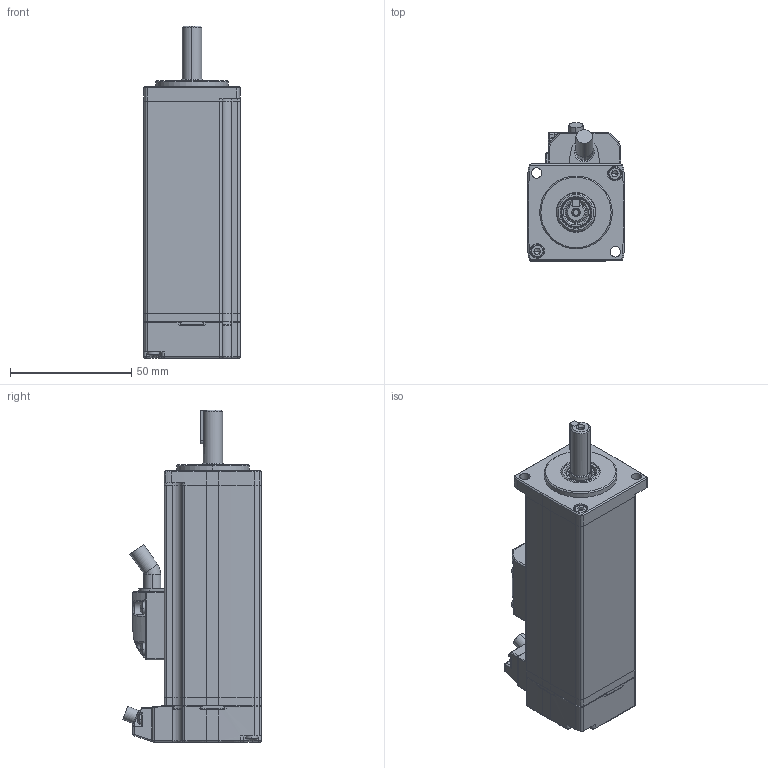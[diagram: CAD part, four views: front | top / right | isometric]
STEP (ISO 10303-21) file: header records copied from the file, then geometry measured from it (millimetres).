
FILE_DESCRIPTION (( 'STEP AP214' ), '1' );
FILE_NAME ('UMM-0001BAB-B4.STEP', '2019-05-22T07:02:18', ( '' ), ( '' ), 'SwSTEP 2.0', 'SolidWorks 2017', '' );
FILE_SCHEMA (( 'AUTOMOTIVE_DESIGN' ));
Length unit declared in the file: millimetre
Products named in the file (1): UMM-0001BAB-B4
Bounding box: 40 x 57.22 x 137 mm (x, y, z)
Surface area: 27643.5 mm2 (no closed solid volume)
Topology: 0 solids, 26 shells, 561 faces, 1632 edges, 1066 vertices
Faces by surface type: cylinder 211, plane 207, bspline 99, cone 44
Entity records: 23636 total; most frequent: CARTESIAN_POINT 9918, ORIENTED_EDGE 2774, DIRECTION 2708, EDGE_CURVE 1611, VERTEX_POINT 1066, AXIS2_PLACEMENT_3D 1007, LINE 694, VECTOR 694
